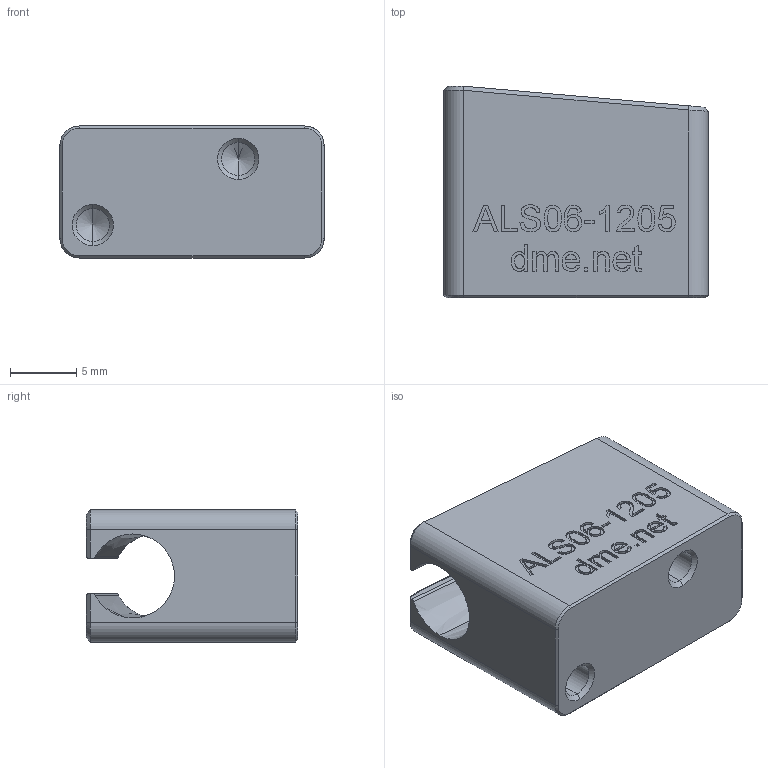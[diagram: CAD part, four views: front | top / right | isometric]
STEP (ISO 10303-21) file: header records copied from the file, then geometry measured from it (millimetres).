
FILE_DESCRIPTION (( 'STEP AP203' ), '1' );
FILE_NAME ('ALS06-1205.STEP', '2021-01-08T19:01:52', ( '' ), ( '' ), 'SwSTEP 2.0', 'SolidWorks 2020', '' );
FILE_SCHEMA (( 'CONFIG_CONTROL_DESIGN' ));
Length unit declared in the file: millimetre
Products named in the file (1): ALS06-1205
Bounding box: 20 x 16 x 10 mm (x, y, z)
Volume: 2299.4 mm3; surface area: 1604.8 mm2
Topology: 1 solids, 1 shells, 280 faces, 736 edges, 480 vertices
Faces by surface type: plane 131, bspline 121, cone 14, cylinder 14
Entity records: 15075 total; most frequent: CARTESIAN_POINT 8974, ORIENTED_EDGE 1464, DIRECTION 818, EDGE_CURVE 732, VERTEX_POINT 480, LINE 450, VECTOR 450, EDGE_LOOP 306
